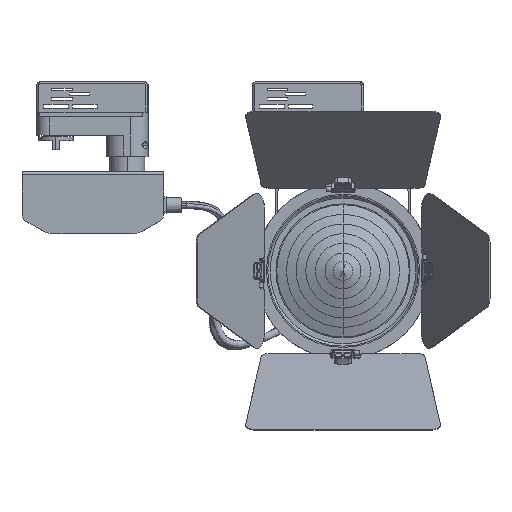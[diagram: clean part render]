
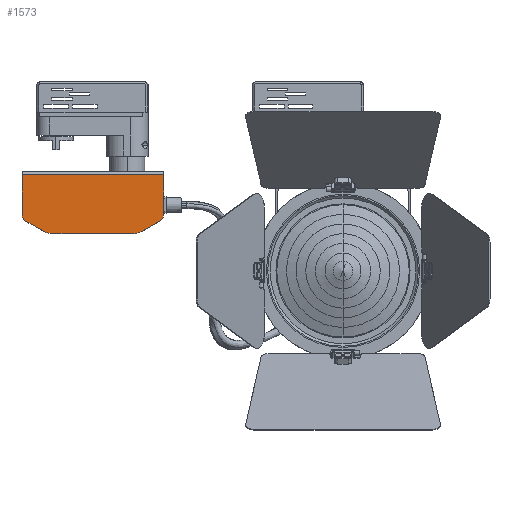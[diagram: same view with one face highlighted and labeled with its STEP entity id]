
A CAD part, top view. The second image highlights one B-rep face of the part: STEP entity #1573.
In plain terms, the highlighted planar face has unit normal (0, 0, 1) as drawn and (0, 0, -1) by its records, which use the part's own axes.
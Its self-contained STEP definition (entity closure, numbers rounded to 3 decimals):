
#1273 = VERTEX_POINT ( 'NONE', #12009 ) ;
#1480 = EDGE_CURVE ( 'NONE', #18897, #2771, #36984, .T. ) ;
#1573 = ADVANCED_FACE ( 'NONE', ( #38210 ), #21906, .F. ) ;
#1579 = VECTOR ( 'NONE', #16647, 1000. ) ;
#2771 = VERTEX_POINT ( 'NONE', #49301 ) ;
#3019 = EDGE_CURVE ( 'NONE', #9263, #16540, #15176, .T. ) ;
#4570 = VECTOR ( 'NONE', #15417, 1000. ) ;
#4834 = AXIS2_PLACEMENT_3D ( 'NONE', #28651, #25091, #17466 ) ;
#5005 = VERTEX_POINT ( 'NONE', #9923 ) ;
#6847 = VECTOR ( 'NONE', #33672, 1000. ) ;
#8443 = ORIENTED_EDGE ( 'NONE', *, *, #3019, .T. ) ;
#9258 = CARTESIAN_POINT ( 'NONE',  ( -43.12, -92.622, -32.4 ) ) ;
#9263 = VERTEX_POINT ( 'NONE', #29593 ) ;
#9407 = VERTEX_POINT ( 'NONE', #29933 ) ;
#9463 = ORIENTED_EDGE ( 'NONE', *, *, #12383, .T. ) ;
#9899 = CIRCLE ( 'NONE', #28178, 14.862 ) ;
#9923 = CARTESIAN_POINT ( 'NONE',  ( 57.35, -84.002, -32.4 ) ) ;
#10078 = LINE ( 'NONE', #9258, #1579 ) ;
#10292 = DIRECTION ( 'NONE',  ( 1., 0., 0. ) ) ;
#10310 = AXIS2_PLACEMENT_3D ( 'NONE', #33584, #41864, #10629 ) ;
#10629 = DIRECTION ( 'NONE',  ( 1., 0., 0. ) ) ;
#11605 = CARTESIAN_POINT ( 'NONE',  ( -61.45, -78.113, -32.4 ) ) ;
#12009 = CARTESIAN_POINT ( 'NONE',  ( 34.988, -94.614, -32.4 ) ) ;
#12363 = ORIENTED_EDGE ( 'NONE', *, *, #29710, .T. ) ;
#12383 = EDGE_CURVE ( 'NONE', #30996, #19247, #23841, .T. ) ;
#12956 = EDGE_CURVE ( 'NONE', #41432, #1273, #9899, .T. ) ;
#13418 = ORIENTED_EDGE ( 'NONE', *, *, #37651, .T. ) ;
#13699 = ORIENTED_EDGE ( 'NONE', *, *, #46955, .T. ) ;
#14550 = CIRCLE ( 'NONE', #41710, 6.8 ) ;
#15024 = DIRECTION ( 'NONE',  ( 0., 0., -1. ) ) ;
#15176 = CIRCLE ( 'NONE', #4834, 6.8 ) ;
#15286 = ORIENTED_EDGE ( 'NONE', *, *, #1480, .T. ) ;
#15417 = DIRECTION ( 'NONE',  ( -0.866, -0.5, 0. ) ) ;
#16540 = VERTEX_POINT ( 'NONE', #11605 ) ;
#16647 = DIRECTION ( 'NONE',  ( -0.866, 0.5, 0. ) ) ;
#17466 = DIRECTION ( 'NONE',  ( 1., 0., 0. ) ) ;
#18897 = VERTEX_POINT ( 'NONE', #49544 ) ;
#19017 = CARTESIAN_POINT ( 'NONE',  ( 34.988, -79.751, -32.4 ) ) ;
#19068 = AXIS2_PLACEMENT_3D ( 'NONE', #46111, #15024, #23136 ) ;
#19247 = VERTEX_POINT ( 'NONE', #22793 ) ;
#19915 = DIRECTION ( 'NONE',  ( 1., 0., 0. ) ) ;
#20872 = LINE ( 'NONE', #26763, #4570 ) ;
#21089 = CARTESIAN_POINT ( 'NONE',  ( -54.65, -44., -32.4 ) ) ;
#21906 = PLANE ( 'NONE',  #10310 ) ;
#22793 = CARTESIAN_POINT ( 'NONE',  ( -43.12, -92.622, -32.4 ) ) ;
#23099 = VECTOR ( 'NONE', #36486, 1000. ) ;
#23136 = DIRECTION ( 'NONE',  ( 1., 0., 0. ) ) ;
#23152 = LINE ( 'NONE', #44822, #6847 ) ;
#23177 = LINE ( 'NONE', #44641, #49120 ) ;
#23307 = CARTESIAN_POINT ( 'NONE',  ( 53.95, -78.113, -32.4 ) ) ;
#23841 = CIRCLE ( 'NONE', #19068, 14.862 ) ;
#25091 = DIRECTION ( 'NONE',  ( 0., 0., -1. ) ) ;
#26763 = CARTESIAN_POINT ( 'NONE',  ( 57.35, -84.002, -32.4 ) ) ;
#27248 = ORIENTED_EDGE ( 'NONE', *, *, #44853, .T. ) ;
#27498 = CARTESIAN_POINT ( 'NONE',  ( 42.419, -92.622, -32.4 ) ) ;
#28178 = AXIS2_PLACEMENT_3D ( 'NONE', #19017, #42356, #46223 ) ;
#28651 = CARTESIAN_POINT ( 'NONE',  ( -54.65, -78.113, -32.4 ) ) ;
#29593 = CARTESIAN_POINT ( 'NONE',  ( -58.05, -84.002, -32.4 ) ) ;
#29710 = EDGE_CURVE ( 'NONE', #1273, #30996, #23177, .T. ) ;
#29933 = CARTESIAN_POINT ( 'NONE',  ( 60.75, -78.113, -32.4 ) ) ;
#30996 = VERTEX_POINT ( 'NONE', #39535 ) ;
#31052 = DIRECTION ( 'NONE',  ( 0., 0., -1. ) ) ;
#31573 = ORIENTED_EDGE ( 'NONE', *, *, #46400, .T. ) ;
#33121 = EDGE_LOOP ( 'NONE', ( #31573, #15286, #13699, #48421, #27248, #37020, #12363, #9463, #13418, #8443 ) ) ;
#33441 = CARTESIAN_POINT ( 'NONE',  ( 60.75, -78.113, -32.4 ) ) ;
#33584 = CARTESIAN_POINT ( 'NONE',  ( -54.65, -78.113, -32.4 ) ) ;
#33672 = DIRECTION ( 'NONE',  ( 0., 1., 0. ) ) ;
#36486 = DIRECTION ( 'NONE',  ( 0., -1., 0. ) ) ;
#36984 = LINE ( 'NONE', #21089, #47934 ) ;
#37020 = ORIENTED_EDGE ( 'NONE', *, *, #12956, .T. ) ;
#37059 = LINE ( 'NONE', #33441, #23099 ) ;
#37651 = EDGE_CURVE ( 'NONE', #19247, #9263, #10078, .T. ) ;
#38210 = FACE_OUTER_BOUND ( 'NONE', #33121, .T. ) ;
#39535 = CARTESIAN_POINT ( 'NONE',  ( -35.689, -94.614, -32.4 ) ) ;
#41432 = VERTEX_POINT ( 'NONE', #27498 ) ;
#41710 = AXIS2_PLACEMENT_3D ( 'NONE', #23307, #31052, #19915 ) ;
#41864 = DIRECTION ( 'NONE',  ( 0., 0., 1. ) ) ;
#42356 = DIRECTION ( 'NONE',  ( 0., 0., -1. ) ) ;
#44641 = CARTESIAN_POINT ( 'NONE',  ( 34.988, -94.614, -32.4 ) ) ;
#44822 = CARTESIAN_POINT ( 'NONE',  ( -61.45, -41., -32.4 ) ) ;
#44853 = EDGE_CURVE ( 'NONE', #5005, #41432, #20872, .T. ) ;
#46111 = CARTESIAN_POINT ( 'NONE',  ( -35.689, -79.751, -32.4 ) ) ;
#46223 = DIRECTION ( 'NONE',  ( 1., 0., 0. ) ) ;
#46400 = EDGE_CURVE ( 'NONE', #16540, #18897, #23152, .T. ) ;
#46955 = EDGE_CURVE ( 'NONE', #2771, #9407, #37059, .T. ) ;
#47934 = VECTOR ( 'NONE', #10292, 1000. ) ;
#48421 = ORIENTED_EDGE ( 'NONE', *, *, #48535, .T. ) ;
#48535 = EDGE_CURVE ( 'NONE', #9407, #5005, #14550, .T. ) ;
#49019 = DIRECTION ( 'NONE',  ( -1., 0., 0. ) ) ;
#49120 = VECTOR ( 'NONE', #49019, 1000. ) ;
#49301 = CARTESIAN_POINT ( 'NONE',  ( 60.75, -44., -32.4 ) ) ;
#49544 = CARTESIAN_POINT ( 'NONE',  ( -61.45, -44., -32.4 ) ) ;
